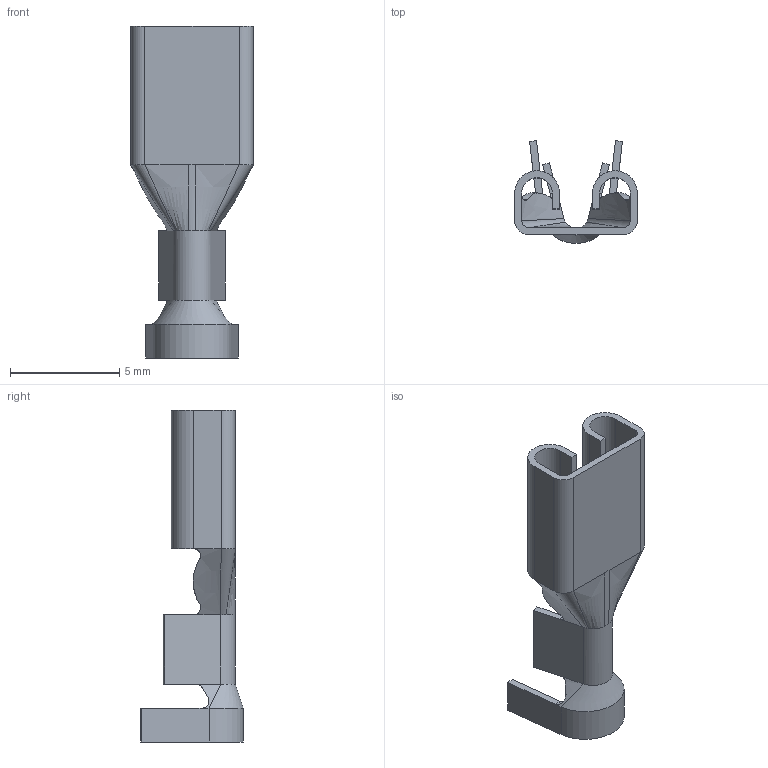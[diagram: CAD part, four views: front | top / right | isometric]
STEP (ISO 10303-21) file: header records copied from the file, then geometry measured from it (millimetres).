
FILE_DESCRIPTION((''),'2;1');
FILE_NAME('C-170037-2-AD-3D','2024-05-27T19:06:59',('JSB0628'),(''),'CREO PARAMETRIC BY PTC INC, 2018050','CREO PARAMETRIC BY PTC INC, 2018050','');
FILE_SCHEMA(('CONFIG_CONTROL_DESIGN'));
Length unit declared in the file: millimetre
Products named in the file (1): C-170037-2-AD-3D
Bounding box: 5.61 x 4.69 x 15.2 mm (x, y, z)
Volume: 50.8 mm3; surface area: 346.9 mm2
Topology: 1 solids, 1 shells, 78 faces, 188 edges, 112 vertices
Faces by surface type: plane 36, cylinder 22, bspline 20
Entity records: 3669 total; most frequent: CARTESIAN_POINT 1960, ORIENTED_EDGE 376, DIRECTION 288, EDGE_CURVE 188, VERTEX_POINT 112, VECTOR 110, LINE 110, AXIS2_PLACEMENT_3D 89
